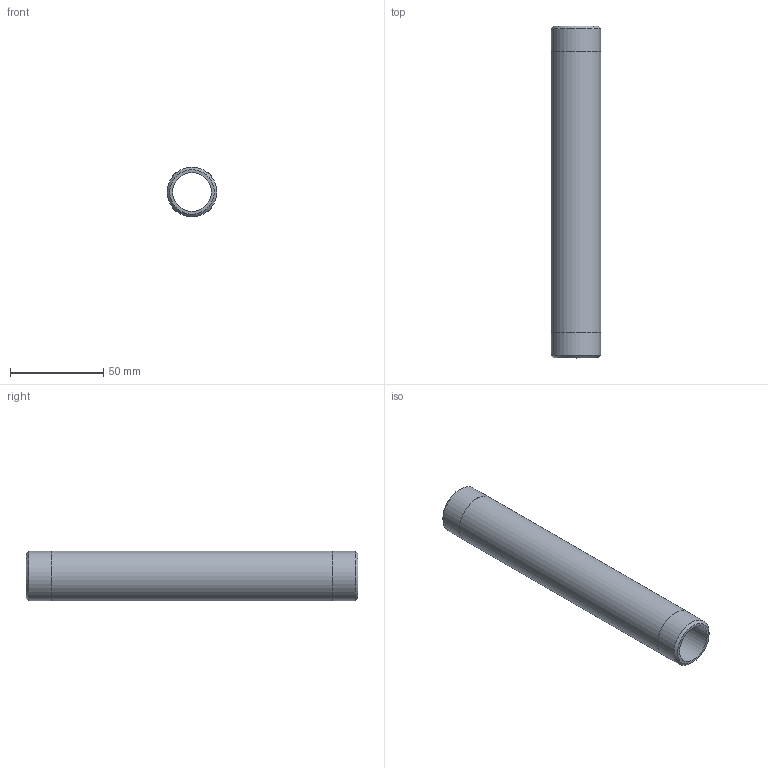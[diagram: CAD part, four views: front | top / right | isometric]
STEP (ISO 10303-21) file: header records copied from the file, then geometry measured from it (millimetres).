
FILE_DESCRIPTION(/* description */ (''),/* implementation_level */ '2;1');
FILE_NAME(/* name */ 'C:/Users/drich/Desktop/SSPN34-7 v1.step',/* time_stamp */ '2020-01-04T13:43:40-06:00',/* author */ (''),/* organization */ (''),/* preprocessor_version */ 'ST-DEVELOPER v18',/* originating_system */ 'Autodesk Translation Framework v8.12.0.6',/* authorisation */ '');
FILE_SCHEMA (('AUTOMOTIVE_DESIGN { 1 0 10303 214 3 1 1 }'));
Length unit declared in the file: inch
Products named in the file (1): SSPN34-7
Bounding box: 26.67 x 177.8 x 26.67 mm (x, y, z)
Volume: 37940 mm3; surface area: 26870.8 mm2
Topology: 1 solids, 1 shells, 10 faces, 24 edges, 18 vertices
Faces by surface type: cylinder 4, plane 4, cone 2
Full cylindrical faces by diameter (mm): 20.93 x1, 26.619 x2, 26.67 x1
Entity records: 353 total; most frequent: DIRECTION 64, CARTESIAN_POINT 53, ORIENTED_EDGE 48, AXIS2_PLACEMENT_3D 29, EDGE_CURVE 24, CIRCLE 18, VERTEX_POINT 18, EDGE_LOOP 14
